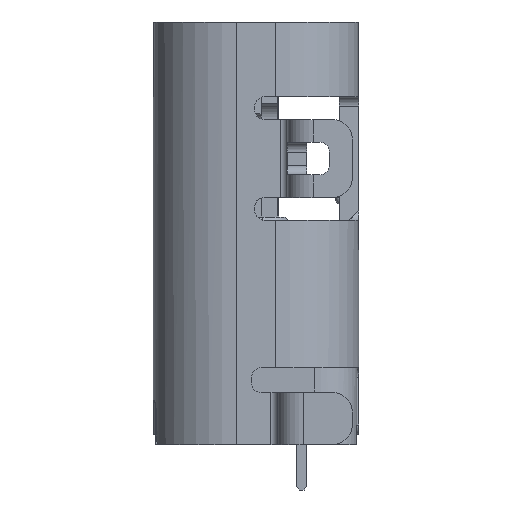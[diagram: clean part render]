
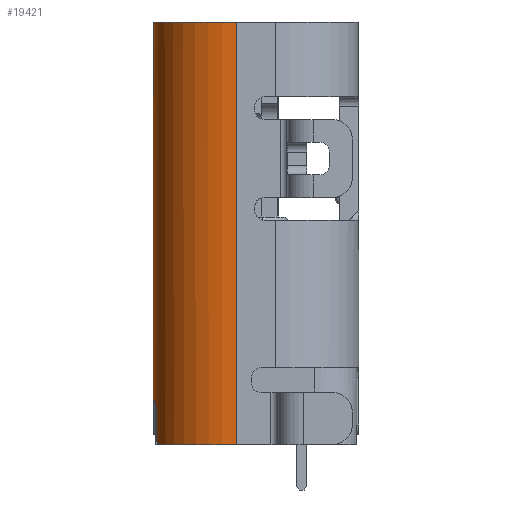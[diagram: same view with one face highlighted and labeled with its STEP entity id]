
A CAD part, left-side view. The second image highlights one B-rep face of the part: STEP entity #19421.
In plain terms, the highlighted cylindrical face has radius 1.28 mm (diameter 2.56 mm), a partial arc.
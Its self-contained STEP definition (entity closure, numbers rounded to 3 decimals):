
#1488=CARTESIAN_POINT('',(-3.678,0.263,4.133));
#1489=DIRECTION('',(0.,0.,1.));
#1490=DIRECTION('',(-0.369,0.929,0.));
#1491=AXIS2_PLACEMENT_3D('',#1488,#1489,#1490);
#1702=CARTESIAN_POINT('',(-3.678,0.263,10.633));
#1703=DIRECTION('',(0.,0.,-1.));
#1704=DIRECTION('',(-1.,0.,0.));
#1705=AXIS2_PLACEMENT_3D('',#1702,#1703,#1704);
#5789=CARTESIAN_POINT('',(-3.678,0.263,4.803));
#5790=DIRECTION('',(0.,0.,1.));
#5791=DIRECTION('',(0.,1.,0.));
#5792=AXIS2_PLACEMENT_3D('',#5789,#5790,#5791);
#5807=DIRECTION('',(0.,0.,1.));
#5808=VECTOR('',#5807,0.37);
#5809=CARTESIAN_POINT('',(-4.008,1.5,4.283));
#5810=LINE('',#5809,#5808);
#5811=DIRECTION('',(0.,0.,1.));
#5812=VECTOR('',#5811,5.83);
#5813=CARTESIAN_POINT('',(-3.678,1.543,4.803));
#5814=LINE('',#5813,#5812);
#5815=DIRECTION('',(0.,0.,-1.));
#5816=VECTOR('',#5815,6.5);
#5817=CARTESIAN_POINT('',(-4.958,0.263,10.633));
#5818=LINE('',#5817,#5816);
#5832=CARTESIAN_POINT('',(-4.008,1.5,4.283));
#5833=CARTESIAN_POINT('',(-4.008,1.5,4.267));
#5834=CARTESIAN_POINT('',(-4.013,1.498,4.236));
#5835=CARTESIAN_POINT('',(-4.034,1.493,4.193));
#5836=CARTESIAN_POINT('',(-4.067,1.483,4.159));
#5837=CARTESIAN_POINT('',(-4.107,1.469,4.137));
#5838=CARTESIAN_POINT('',(-4.137,1.458,4.133));
#5839=CARTESIAN_POINT('',(-4.151,1.452,4.133));
#5850=CARTESIAN_POINT('',(-3.858,1.53,4.803));
#5851=CARTESIAN_POINT('',(-3.875,1.528,4.803));
#5852=CARTESIAN_POINT('',(-3.907,1.523,4.797));
#5853=CARTESIAN_POINT('',(-3.949,1.514,4.776));
#5854=CARTESIAN_POINT('',(-3.983,1.506,4.742));
#5855=CARTESIAN_POINT('',(-4.004,1.501,4.699));
#5856=CARTESIAN_POINT('',(-4.008,1.5,4.668));
#5857=CARTESIAN_POINT('',(-4.008,1.5,4.653));
#9894=CARTESIAN_POINT('',(-4.958,0.263,4.133));
#9895=VERTEX_POINT('',#9894);
#9896=CARTESIAN_POINT('',(-4.958,0.263,10.633));
#9897=VERTEX_POINT('',#9896);
#9952=CARTESIAN_POINT('',(-4.151,1.452,4.133));
#9953=VERTEX_POINT('',#9952);
#9987=CARTESIAN_POINT('',(-3.678,1.543,10.633));
#9988=VERTEX_POINT('',#9987);
#10193=CARTESIAN_POINT('',(-3.678,1.543,4.803));
#10194=VERTEX_POINT('',#10193);
#11242=CARTESIAN_POINT('',(-3.858,1.53,4.803));
#11243=VERTEX_POINT('',#11242);
#11244=CARTESIAN_POINT('',(-4.008,1.5,4.283));
#11245=CARTESIAN_POINT('',(-4.008,1.5,4.653));
#11246=VERTEX_POINT('',#11244);
#11247=VERTEX_POINT('',#11245);
#19403=CARTESIAN_POINT('',(-3.678,0.263,4.133));
#19404=DIRECTION('',(0.,0.,1.));
#19405=DIRECTION('',(0.,1.,0.));
#19406=AXIS2_PLACEMENT_3D('',#19403,#19404,#19405);
#19407=CYLINDRICAL_SURFACE('',#19406,1.28);
#19409=ORIENTED_EDGE('',*,*,#19408,.T.);
#19411=ORIENTED_EDGE('',*,*,#19410,.F.);
#19412=ORIENTED_EDGE('',*,*,#19393,.F.);
#19413=ORIENTED_EDGE('',*,*,#14465,.T.);
#19414=ORIENTED_EDGE('',*,*,#13933,.F.);
#19415=ORIENTED_EDGE('',*,*,#13344,.T.);
#19416=ORIENTED_EDGE('',*,*,#13563,.F.);
#19418=ORIENTED_EDGE('',*,*,#19417,.F.);
#19419=EDGE_LOOP('',(#19409,#19411,#19412,#19413,#19414,#19415,#19416,#19418));
#19420=FACE_OUTER_BOUND('',#19419,.F.);
#19421=ADVANCED_FACE('',(#19420),#19407,.T.);
#1492=CIRCLE('',#1491,1.28);
#1706=CIRCLE('',#1705,1.28);
#5793=CIRCLE('',#5792,1.28);
#5840=B_SPLINE_CURVE_WITH_KNOTS('',3,(#5832,#5833,#5834,#5835,#5836,#5837,#5838,
#5839),.UNSPECIFIED.,.F.,.F.,(4,1,1,1,1,4),(0.,0.2,0.4,0.6,0.8,1.),
.UNSPECIFIED.);
#5858=B_SPLINE_CURVE_WITH_KNOTS('',3,(#5850,#5851,#5852,#5853,#5854,#5855,#5856,
#5857),.UNSPECIFIED.,.F.,.F.,(4,1,1,1,1,4),(0.,0.2,0.4,0.6,0.8,1.),
.UNSPECIFIED.);
#13344=EDGE_CURVE('',#9897,#9895,#5818,.T.);
#13563=EDGE_CURVE('',#9953,#9895,#1492,.T.);
#13933=EDGE_CURVE('',#9897,#9988,#1706,.T.);
#14465=EDGE_CURVE('',#10194,#9988,#5814,.T.);
#19393=EDGE_CURVE('',#10194,#11243,#5793,.T.);
#19408=EDGE_CURVE('',#11246,#11247,#5810,.T.);
#19410=EDGE_CURVE('',#11243,#11247,#5858,.T.);
#19417=EDGE_CURVE('',#11246,#9953,#5840,.T.);
